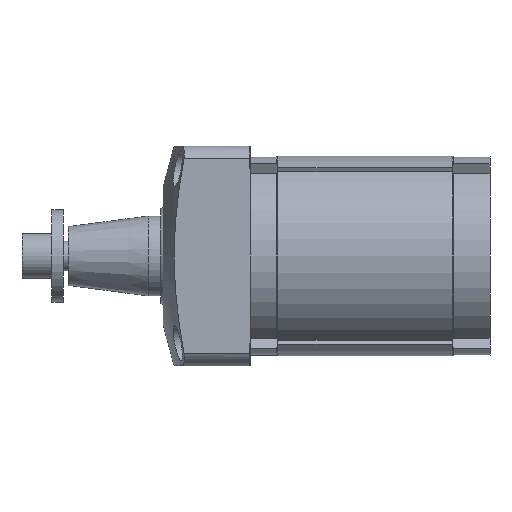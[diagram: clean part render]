
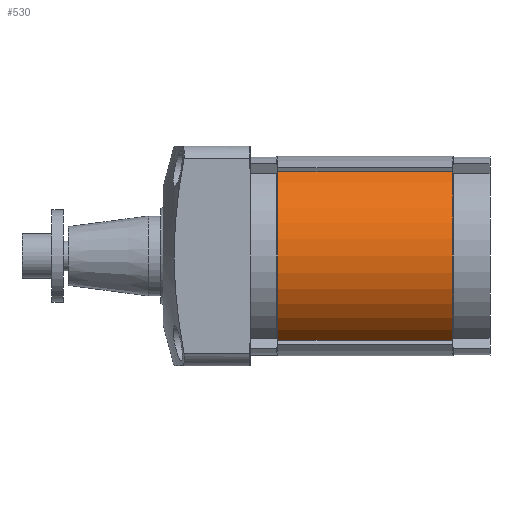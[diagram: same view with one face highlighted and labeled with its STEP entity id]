
A CAD part, left-side view. The second image highlights one B-rep face of the part: STEP entity #530.
In plain terms, the highlighted cylindrical face has radius 40 mm (diameter 80 mm), a partial arc.
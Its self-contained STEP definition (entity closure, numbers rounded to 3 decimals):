
#530 = ADVANCED_FACE( '', ( #995 ), #996, .T. );
#995 = FACE_OUTER_BOUND( '', #1594, .T. );
#996 = CYLINDRICAL_SURFACE( '', #1595, 40. );
#1594 = EDGE_LOOP( '', ( #2997, #2998, #2999, #3000 ) );
#1595 = AXIS2_PLACEMENT_3D( '', #3001, #3002, #3003 );
#2997 = ORIENTED_EDGE( '', *, *, #3933, .F. );
#2998 = ORIENTED_EDGE( '', *, *, #4130, .T. );
#2999 = ORIENTED_EDGE( '', *, *, #4048, .T. );
#3000 = ORIENTED_EDGE( '', *, *, #4131, .F. );
#3001 = CARTESIAN_POINT( '', ( 0., -81., 0. ) );
#3002 = DIRECTION( '', ( 0., -1., 0. ) );
#3003 = DIRECTION( '', ( -1., 0., 0. ) );
#3933 = EDGE_CURVE( '', #4682, #4684, #4685, .T. );
#4048 = EDGE_CURVE( '', #4817, #4894, #4896, .T. );
#4130 = EDGE_CURVE( '', #4682, #4817, #5023, .T. );
#4131 = EDGE_CURVE( '', #4684, #4894, #5024, .T. );
#4682 = VERTEX_POINT( '', #6360 );
#4684 = VERTEX_POINT( '', #6363 );
#4685 = CIRCLE( '', #6364, 40. );
#4817 = VERTEX_POINT( '', #6545 );
#4894 = VERTEX_POINT( '', #6649 );
#4896 = CIRCLE( '', #6652, 40. );
#5023 = LINE( '', #6836, #6837 );
#5024 = LINE( '', #6838, #6839 );
#6360 = CARTESIAN_POINT( '', ( -21.37, -81., 33.813 ) );
#6363 = CARTESIAN_POINT( '', ( -21.37, -81., -33.813 ) );
#6364 = AXIS2_PLACEMENT_3D( '', #7556, #7557, #7558 );
#6545 = CARTESIAN_POINT( '', ( -21.37, -11., 33.813 ) );
#6649 = CARTESIAN_POINT( '', ( -21.37, -11., -33.813 ) );
#6652 = AXIS2_PLACEMENT_3D( '', #7747, #7748, #7749 );
#6836 = CARTESIAN_POINT( '', ( -21.37, -81., 33.813 ) );
#6837 = VECTOR( '', #7879, 1000. );
#6838 = CARTESIAN_POINT( '', ( -21.37, -81., -33.813 ) );
#6839 = VECTOR( '', #7880, 1000. );
#7556 = CARTESIAN_POINT( '', ( 0., -81., 0. ) );
#7557 = DIRECTION( '', ( 0., -1., 0. ) );
#7558 = DIRECTION( '', ( 0., 0., 1. ) );
#7747 = CARTESIAN_POINT( '', ( 0., -11., 0. ) );
#7748 = DIRECTION( '', ( 0., -1., 0. ) );
#7749 = DIRECTION( '', ( 0., 0., 1. ) );
#7879 = DIRECTION( '', ( 0., 1., 0. ) );
#7880 = DIRECTION( '', ( 0., 1., 0. ) );
